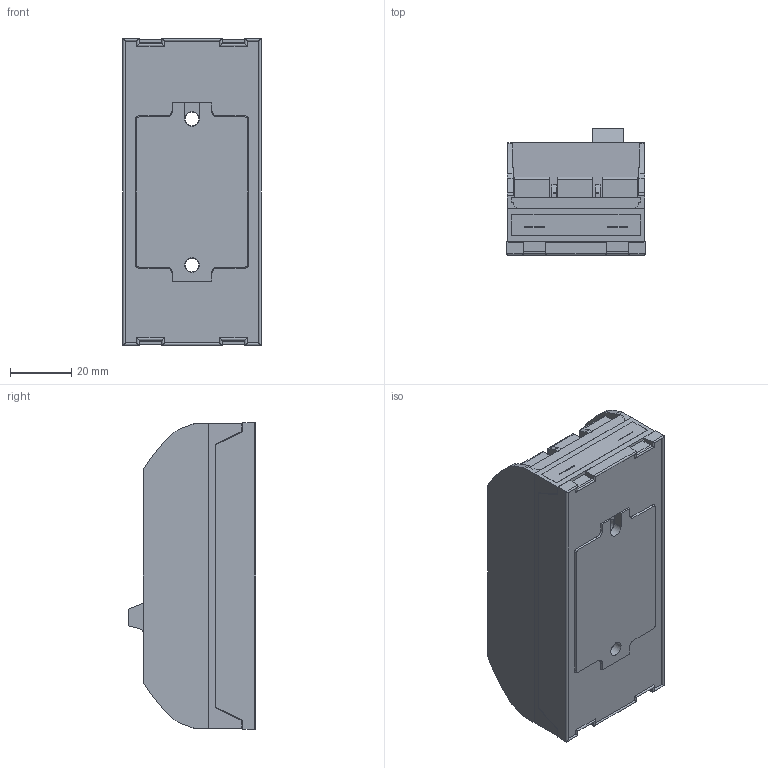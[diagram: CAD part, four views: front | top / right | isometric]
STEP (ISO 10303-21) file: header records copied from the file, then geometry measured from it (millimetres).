
FILE_DESCRIPTION(/* description */ (''),/* implementation_level */ '2;1');
FILE_NAME(/* name */ 'C:\Vault_local\Designs\Stock\20\99 Triphasé 45mm\2D3D 645 A.stp',/* time_stamp */ '2017-12-15T10:25:51+01:00',/* author */ ('fbros'),/* organization */ (''),/* preprocessor_version */ 'ST-DEVELOPER v15.2',/* originating_system */ 'Autodesk Inventor 2014',/* authorisation */ '');
FILE_SCHEMA (('CONFIG_CONTROL_DESIGN'));
Length unit declared in the file: centimetre
Products named in the file (1): 2D3D 645 A
Bounding box: 45 x 41.53 x 99.8 mm (x, y, z)
Volume: 113349 mm3; surface area: 46135.1 mm2
Topology: 1 solids, 31 shells, 1419 faces, 3712 edges, 2451 vertices
Faces by surface type: plane 970, cylinder 292, cone 140, bspline 14, sphere 2, torus 1
Full cylindrical faces by diameter (mm): 1 x36, 1.5 x18, 2.35 x1, 2.9 x1, 2.95 x1, 3.12 x1, 3.6 x2, 4 x12, 4.7 x1, 4.8 x2
Entity records: 45655 total; most frequent: CARTESIAN_POINT 9567, DIRECTION 7182, ORIENTED_EDGE 6986, EDGE_CURVE 3493, LINE 2394, VECTOR 2394, AXIS2_PLACEMENT_3D 2394, VERTEX_POINT 2376
